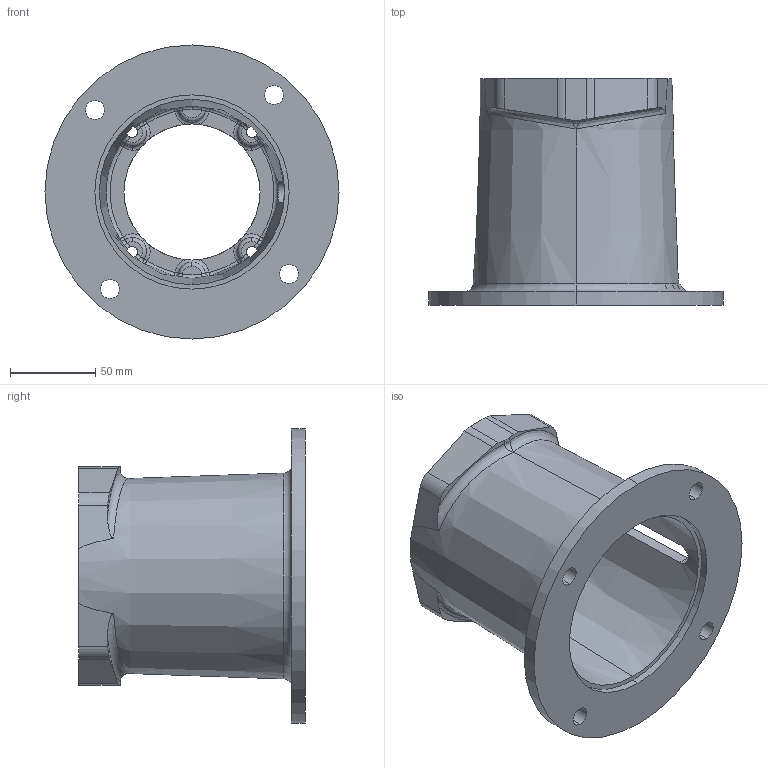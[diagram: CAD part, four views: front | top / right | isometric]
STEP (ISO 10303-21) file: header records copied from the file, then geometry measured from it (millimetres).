
FILE_DESCRIPTION (( 'STEP AP203' ), '1' );
FILE_NAME ('M0565280MS.STEP', '2015-01-19T15:37:45', ( '' ), ( '' ), 'SwSTEP 2.0', 'SolidWorks 2014', '' );
FILE_SCHEMA (( 'CONFIG_CONTROL_DESIGN' ));
Length unit declared in the file: inch
Products named in the file (1): M0565280MS
Bounding box: 172.97 x 133.35 x 172.97 mm (x, y, z)
Volume: 457893.2 mm3; surface area: 131003.6 mm2
Topology: 1 solids, 1 shells, 182 faces, 478 edges, 281 vertices
Faces by surface type: torus 46, cylinder 34, plane 32, bspline 30, sphere 24, cone 16
Entity records: 7770 total; most frequent: CARTESIAN_POINT 3401, ORIENTED_EDGE 928, DIRECTION 928, EDGE_CURVE 464, AXIS2_PLACEMENT_3D 427, VERTEX_POINT 281, CIRCLE 274, EDGE_LOOP 199
